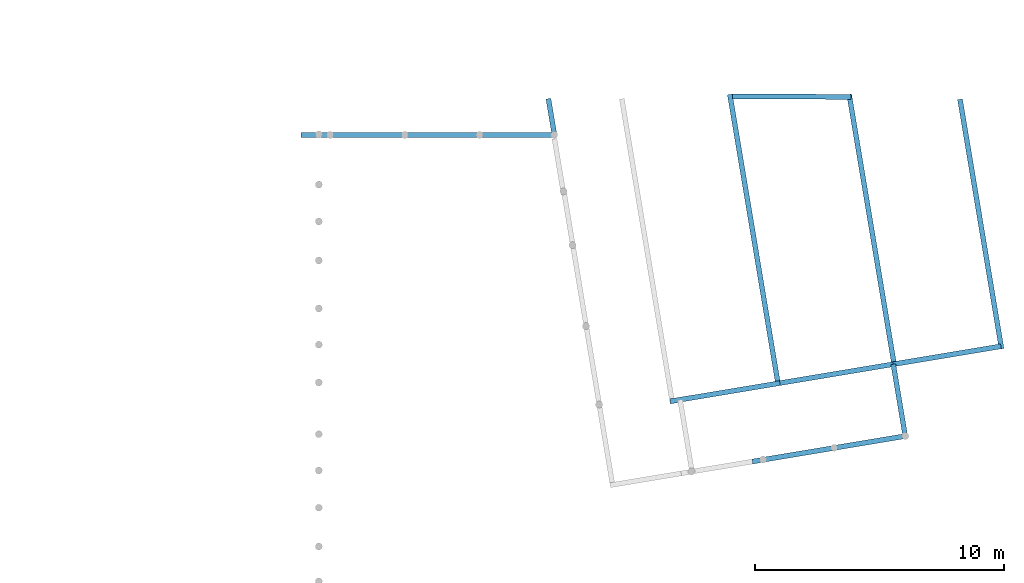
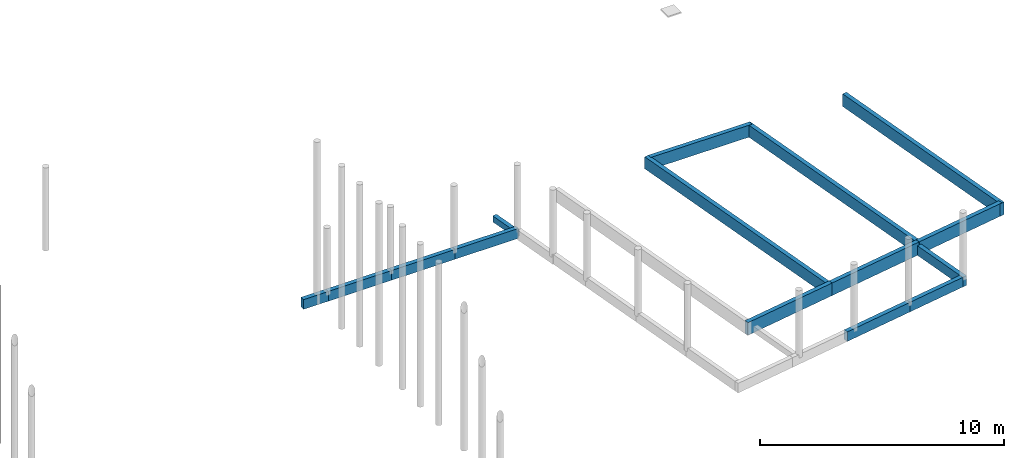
# One storey, part 3 of 4: 15 slabs.
"""IFC4 building model written with IfcOpenShell, lengths in metres."""

import ifcopenshell
import ifcopenshell.guid

model = None  # the IFC model being written
_history = None  # IfcOwnerHistory: only IFC2X3 demands one
_inside = {}  # id of a spatial element -> (the spatial element, [elements in it])
_under = {}  # id of a project, library or spatial element -> (it, [spatial elements below it])
_declared = {}  # id of a project -> (the project, [libraries it declares])
_typed = {}  # id of a type object -> (the type object, [elements of that type])
_made_of = {}  # id of a material, layer set ... -> (it, [elements and type objects made of it])


def new_model(schema):
    """Start an empty IFC model of exactly this schema.

    Asked for "IFC4X3", IfcOpenShell would pick the latest addendum, in which some entities
    have other attributes; the version numbers below select the first issue.
    IFC2X3 requires an IfcOwnerHistory on every rooted entity: one is made here for all.
    """
    global model, _history
    if schema == "IFC4X3":
        model = ifcopenshell.file(schema_version=(4, 3, 0, 0))
    else:
        model = ifcopenshell.file(schema=schema)
    _inside.clear()
    _under.clear()
    _declared.clear()
    _typed.clear()
    _made_of.clear()
    _history = None
    if model.schema == "IFC2X3":
        org = make("IfcOrganization", Name="unknown")
        user = make(
            "IfcPersonAndOrganization",
            ThePerson=make("IfcPerson", FamilyName="unknown"),
            TheOrganization=org,
        )
        app = make(
            "IfcApplication",
            ApplicationDeveloper=org,
            Version="unknown",
            ApplicationFullName="unknown",
            ApplicationIdentifier="unknown",
        )
        _history = make(
            "IfcOwnerHistory",
            OwningUser=user,
            OwningApplication=app,
            ChangeAction="ADDED",
            CreationDate=0,
        )
    return model


def make(cls, **values):
    """One entity of the class cls with the attributes given. An attribute that is None is left unset."""
    return model.create_entity(
        cls, **{name: value for name, value in values.items() if value is not None}
    )


def entity(cls, *values):
    """Any entity or typed value of the class cls, its attributes in the order of the schema. None: left unset."""
    e = model.create_entity(cls)
    for i, value in enumerate(values):
        if value is not None:
            e[i] = value
    return e


def rooted(cls, **values):
    """An entity with a GlobalId (a new one), such as an element, a storey or a relation."""
    return make(cls, GlobalId=ifcopenshell.guid.new(), OwnerHistory=_history, **values)


def si_unit(unit_type, name, prefix=None):
    """IfcSIUnit, for example si_unit("LENGTHUNIT", "METRE", prefix="MILLI")."""
    return make("IfcSIUnit", UnitType=unit_type, Prefix=prefix, Name=name)


def converted_unit(unit_type, name, factor, base, dimensions=None, offset=None):
    """IfcConversionBasedUnit, such as the inch: factor (a typed value) times the base unit."""
    return make(
        "IfcConversionBasedUnit"
        if offset is None
        else "IfcConversionBasedUnitWithOffset",
        ConversionOffset=offset,
        Dimensions=None
        if dimensions is None
        else entity("IfcDimensionalExponents", *dimensions),
        UnitType=unit_type,
        Name=name,
        ConversionFactor=make(
            "IfcMeasureWithUnit", ValueComponent=factor, UnitComponent=base
        ),
    )


def derived_unit(unit_type, elements):
    """IfcDerivedUnit: a product of units, each with its exponent."""
    return make(
        "IfcDerivedUnit",
        Elements=[
            make("IfcDerivedUnitElement", Unit=unit, Exponent=power)
            for unit, power in elements
        ],
        UnitType=unit_type,
    )


def assignment(units):
    """IfcUnitAssignment: the units of a project."""
    return None if units is None else make("IfcUnitAssignment", Units=units)


def point(xyz):
    """IfcCartesianPoint."""
    return None if xyz is None else make("IfcCartesianPoint", Coordinates=xyz)


def direction(xyz):
    """IfcDirection."""
    return None if xyz is None else make("IfcDirection", DirectionRatios=xyz)


def frame(location, z_axis=None, x_axis=None):
    """IfcAxis2Placement3D, a coordinate frame: its origin and axes. An axis left out is left unset."""
    return make(
        "IfcAxis2Placement3D",
        Location=point(location),
        Axis=direction(z_axis),
        RefDirection=direction(x_axis),
    )


def origin():
    """The frame at (0, 0, 0) with its axes left unset."""
    return frame((0.0, 0.0, 0.0))


def place(relative_to, where):
    """IfcLocalPlacement: puts the frame where relative to a parent placement (None: the world)."""
    return make(
        "IfcLocalPlacement", PlacementRelTo=relative_to, RelativePlacement=where
    )


def context(
    kind, dimensions, precision=None, world=None, true_north=None, identifier=None
):
    """IfcGeometricRepresentationContext, for example the 3D "Model" context."""
    return make(
        "IfcGeometricRepresentationContext",
        ContextIdentifier=identifier,
        ContextType=kind,
        CoordinateSpaceDimension=dimensions,
        Precision=precision,
        WorldCoordinateSystem=world,
        TrueNorth=true_north,
    )


def subcontext(parent, identifier, kind, view, scale=None):
    """IfcGeometricRepresentationSubContext, for example "Body" below "Model"."""
    return make(
        "IfcGeometricRepresentationSubContext",
        ContextIdentifier=identifier,
        ContextType=kind,
        ParentContext=parent,
        TargetScale=scale,
        TargetView=view,
    )


def project(units=None, contexts=None):
    """IfcProject with its units and contexts."""
    return rooted(
        "IfcProject",
        Name="project",
        RepresentationContexts=contexts,
        UnitsInContext=assignment(units),
    )


def spatial(cls, under=None, at=None, **own):
    """A site, building, storey or space (cls), placed at a placement, below another one or the project."""
    s = rooted(cls, ObjectPlacement=at, **own)
    if under is not None:
        _under.setdefault(under.id(), (under, []))[1].append(s)
    return s


def point_list(points):
    """IfcCartesianPointList2D or 3D."""
    cls = (
        "IfcCartesianPointList2D" if len(points[0]) == 2 else "IfcCartesianPointList3D"
    )
    return make(cls, CoordList=points)


def indexed_curve(points, segments=None, self_intersect=None):
    """IfcIndexedPolyCurve: lines and arcs through numbered points (the first is 1)."""
    return make(
        "IfcIndexedPolyCurve",
        Points=point_list(points),
        Segments=segments,
        SelfIntersect=self_intersect,
    )


def outline(outer, holes=None, kind="AREA"):
    """IfcArbitraryClosedProfileDef: a profile drawn as a closed curve; with holes, ...WithVoids."""
    if holes is None:
        return make("IfcArbitraryClosedProfileDef", ProfileType=kind, OuterCurve=outer)
    return make(
        "IfcArbitraryProfileDefWithVoids",
        ProfileType=kind,
        OuterCurve=outer,
        InnerCurves=holes,
    )


def extrude(swept, where, along, depth):
    """IfcExtrudedAreaSolid: the profile swept, set in the frame where, extruded along a direction by depth."""
    return make(
        "IfcExtrudedAreaSolid",
        SweptArea=swept,
        Position=where,
        ExtrudedDirection=direction(along),
        Depth=depth,
    )


def shape(context_of_items, identifier, shape_type, items):
    """IfcShapeRepresentation: the items that make up one representation, for example the "Body"."""
    return make(
        "IfcShapeRepresentation",
        ContextOfItems=context_of_items,
        RepresentationIdentifier=identifier,
        RepresentationType=shape_type,
        Items=items,
    )


def made_of(thing, what):
    """Note that an element or type object is made of a material, layer set ...; save() writes the relation."""
    if what is not None:
        _made_of.setdefault(what.id(), (what, []))[1].append(thing)
    return thing


def type_object(cls, material=None, **own):
    """A type object (cls), such as IfcWallType, which elements share."""
    return made_of(rooted(cls, **own), material)


def element(
    cls,
    number,
    at=None,
    inside=None,
    cuts=None,
    type_object=None,
    material=None,
    context=None,
    identifier="Body",
    shape_type=None,
    held_by="IfcProductDefinitionShape",
    body=None,
    shapes=None,
    **own,
):
    """One element of the class cls, such as IfcWall. Its Tag is "e" and its number.

    at: its placement. inside: the storey or other place that contains it. cuts: it is an
    opening in that element (IfcRelVoidsElement). A single representation is given by context,
    identifier, shape_type and body (its items); several are given by shapes. held_by: the class
    of the entity that holds the representations. save() writes the other relations.
    """
    e = rooted(cls, Tag="e%d" % number, ObjectPlacement=at, **own)
    if body is not None:
        shapes = [shape(context, identifier, shape_type, body)]
    if shapes is not None:
        e.Representation = make(held_by, Representations=shapes)
    if inside is not None:
        _inside.setdefault(inside.id(), (inside, []))[1].append(e)
    if cuts is not None:
        rooted(
            "IfcRelVoidsElement", RelatingBuildingElement=cuts, RelatedOpeningElement=e
        )
    if type_object is not None:
        _typed.setdefault(type_object.id(), (type_object, []))[1].append(e)
    return made_of(e, material)


def aggregate(whole, parts):
    """IfcRelAggregates: a whole, such as a stair, and the parts it consists of."""
    return rooted("IfcRelAggregates", RelatingObject=whole, RelatedObjects=parts)


def save(model, path):
    """Write the relations noted so far, then the file.

    IfcRelAggregates (storeys below a building ...), IfcRelContainedInSpatialStructure (elements
    in a storey), IfcRelDefinesByType, IfcRelAssociatesMaterial and IfcRelDeclares: one each for
    every whole, place, type object, material and project.
    """
    for whole, parts in _under.values():
        aggregate(whole, parts)
    for where, things in _inside.values():
        rooted(
            "IfcRelContainedInSpatialStructure",
            RelatedElements=things,
            RelatingStructure=where,
        )
    for kind, things in _typed.values():
        rooted("IfcRelDefinesByType", RelatedObjects=things, RelatingType=kind)
    for what, things in _made_of.values():
        rooted("IfcRelAssociatesMaterial", RelatedObjects=things, RelatingMaterial=what)
    for by, libraries in _declared.values():
        rooted("IfcRelDeclares", RelatingContext=by, RelatedDefinitions=libraries)
    model.write(path)


model = new_model("IFC4")

# Units and contexts
model_context = context("Model", 3, precision=1e-05, world=origin(), true_north=direction((6.123031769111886e-17, 1.0)))
body_context = subcontext(model_context, "Body", "Model", "MODEL_VIEW")
ifc_project = project(units=[si_unit("LENGTHUNIT", "METRE"), si_unit("AREAUNIT", "SQUARE_METRE"), si_unit("VOLUMEUNIT", "CUBIC_METRE"), converted_unit("PLANEANGLEUNIT", "DEGREE", entity("IfcRatioMeasure", 0.017453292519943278), si_unit("PLANEANGLEUNIT", "RADIAN"), dimensions=[0, 0, 0, 0, 0, 0, 0]), si_unit("MASSUNIT", "GRAM", prefix="KILO"), derived_unit("MASSDENSITYUNIT", [(si_unit("MASSUNIT", "GRAM", prefix="KILO"), 1), (si_unit("LENGTHUNIT", "METRE"), -3)]), derived_unit("MOMENTOFINERTIAUNIT", [(si_unit("LENGTHUNIT", "METRE"), 4)]), si_unit("TIMEUNIT", "SECOND"), si_unit("FREQUENCYUNIT", "HERTZ"), si_unit("THERMODYNAMICTEMPERATUREUNIT", "DEGREE_CELSIUS"), derived_unit("THERMALTRANSMITTANCEUNIT", [(si_unit("MASSUNIT", "GRAM", prefix="KILO"), 1), (si_unit("THERMODYNAMICTEMPERATUREUNIT", "KELVIN"), -1), (si_unit("TIMEUNIT", "SECOND"), -3)]), derived_unit("VOLUMETRICFLOWRATEUNIT", [(si_unit("LENGTHUNIT", "METRE"), 3), (si_unit("TIMEUNIT", "SECOND"), -1)]), derived_unit("MASSFLOWRATEUNIT", [(si_unit("MASSUNIT", "GRAM", prefix="KILO"), 1), (si_unit("TIMEUNIT", "SECOND"), -1)]), derived_unit("ROTATIONALFREQUENCYUNIT", [(si_unit("TIMEUNIT", "SECOND"), -1)]), si_unit("ELECTRICCURRENTUNIT", "AMPERE"), si_unit("ELECTRICVOLTAGEUNIT", "VOLT"), si_unit("POWERUNIT", "WATT"), si_unit("FORCEUNIT", "NEWTON", prefix="KILO"), si_unit("ILLUMINANCEUNIT", "LUX"), si_unit("LUMINOUSFLUXUNIT", "LUMEN"), si_unit("LUMINOUSINTENSITYUNIT", "CANDELA"), derived_unit("USERDEFINED", [(si_unit("MASSUNIT", "GRAM", prefix="KILO"), -1), (si_unit("LENGTHUNIT", "METRE"), -2), (si_unit("TIMEUNIT", "SECOND"), 3), (si_unit("LUMINOUSFLUXUNIT", "LUMEN"), 1)]), derived_unit("SOUNDPOWERUNIT", [(si_unit("MASSUNIT", "GRAM", prefix="KILO"), 1), (si_unit("LENGTHUNIT", "METRE"), 2), (si_unit("TIMEUNIT", "SECOND"), -3)]), derived_unit("SOUNDPRESSUREUNIT", [(si_unit("MASSUNIT", "GRAM", prefix="KILO"), 1), (si_unit("LENGTHUNIT", "METRE"), -1), (si_unit("TIMEUNIT", "SECOND"), -2)]), derived_unit("LINEARVELOCITYUNIT", [(si_unit("LENGTHUNIT", "METRE"), 1), (si_unit("TIMEUNIT", "SECOND"), -1)]), si_unit("PRESSUREUNIT", "PASCAL"), derived_unit("USERDEFINED", [(si_unit("LENGTHUNIT", "METRE"), -2), (si_unit("MASSUNIT", "GRAM", prefix="KILO"), 1), (si_unit("TIMEUNIT", "SECOND"), -2)]), derived_unit("LINEARFORCEUNIT", [(si_unit("MASSUNIT", "GRAM", prefix="KILO"), 1), (si_unit("LENGTHUNIT", "METRE"), 1), (si_unit("TIMEUNIT", "SECOND"), -2), (si_unit("LENGTHUNIT", "METRE"), -1)]), derived_unit("PLANARFORCEUNIT", [(si_unit("MASSUNIT", "GRAM", prefix="KILO"), 1), (si_unit("LENGTHUNIT", "METRE"), 1), (si_unit("TIMEUNIT", "SECOND"), -2), (si_unit("LENGTHUNIT", "METRE"), -2)])], contexts=[model_context])

# Site, building, storey
site_placement = place(None, origin())
site = spatial("IfcSite", under=ifc_project, at=site_placement, Name="Default", CompositionType="ELEMENT")
building_placement = place(site_placement, origin())
building = spatial("IfcBuilding", under=site, at=building_placement, CompositionType="ELEMENT")
storey_placement = place(building_placement, frame((0.0, 0.0, -0.63)))
storey = spatial("IfcBuildingStorey", under=building, at=storey_placement, Name="Arase inf longrines", CompositionType="ELEMENT", Elevation=-0.63)

# Slabs
slab_type_1 = type_object("IfcSlabType", Name="Lg 02 20*60:Lg 02 20*60", PredefinedType="BASESLAB")
slab_1_placement = place(storey_placement, origin())
element("IfcSlab", 1, at=slab_1_placement, inside=storey, type_object=slab_type_1, Name="Lg 02 20*60:Lg 02 20*60", ObjectType="Lg 02 20*60:Lg 02 20*60", PredefinedType="BASESLAB", context=body_context, shape_type="SweptSolid", body=[
    extrude(outline(indexed_curve([(-1.4999999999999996, -0.1), (1.4999999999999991, -0.1), (1.4999999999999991, 0.1), (-1.4999999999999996, 0.1), (-1.4999999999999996, -0.1)], self_intersect=False)), frame((-2.4734500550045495, 9.159106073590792, 0.0), z_axis=(0.0, 0.0, 1.0), x_axis=(-1.0, 0.0, 0.0)), (0.0, 0.0, 1.0), 0.4899999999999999),
])
slab_type_2 = type_object("IfcSlabType", Name="Lg01 20*5:Lg01 20*30", PredefinedType="BASESLAB")
slab_2_placement = place(storey_placement, origin())
element("IfcSlab", 2, at=slab_2_placement, inside=storey, type_object=slab_type_2, Name="Lg01 20*5:Lg01 20*30", ObjectType="Lg01 20*5:Lg01 20*30", PredefinedType="BASESLAB", context=body_context, shape_type="SweptSolid", body=[
    extrude(outline(indexed_curve([(-0.7358023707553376, -0.10000000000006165), (0.7358023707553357, -0.10000000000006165), (0.7358023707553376, 0.10000000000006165), (-0.7358023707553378, 0.10000000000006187), (-0.7358023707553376, -0.10000000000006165)], self_intersect=False)), frame((-1.0836030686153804, 9.889751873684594, 0.0), z_axis=(0.0, 0.0, 1.0), x_axis=(-0.1641868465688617, 0.9864292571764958, 0.0)), (0.0, 0.0, 1.0), 0.29999999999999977),
])
slab_type_3 = type_object("IfcSlabType", Name="Lg 02 20*1:Lg 02 20*60", PredefinedType="BASESLAB")
slab_3_placement = place(storey_placement, origin())
element("IfcSlab", 3, at=slab_3_placement, inside=storey, type_object=slab_type_3, Name="Lg 02 20*1:Lg 02 20*60", ObjectType="Lg 02 20*1:Lg 02 20*60", PredefinedType="BASESLAB", context=body_context, shape_type="SweptSolid", body=[
    extrude(outline(indexed_curve([(-1.4999999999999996, -0.1), (1.4999999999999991, -0.1), (1.4999999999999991, 0.1), (-1.4999999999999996, 0.1), (-1.4999999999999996, -0.1)], self_intersect=False)), frame((-5.483450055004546, 9.159106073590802, 0.0), z_axis=(0.0, 0.0, 1.0), x_axis=(-1.0, 0.0, 0.0)), (0.0, 0.0, 1.0), 0.4899999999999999),
])
slab_type_4 = type_object("IfcSlabType", Name="Lg 02 20*2:Lg 02 20*60", PredefinedType="BASESLAB")
slab_4_placement = place(storey_placement, origin())
element("IfcSlab", 4, at=slab_4_placement, inside=storey, type_object=slab_type_4, Name="Lg 02 20*2:Lg 02 20*60", ObjectType="Lg 02 20*2:Lg 02 20*60", PredefinedType="BASESLAB", context=body_context, shape_type="SweptSolid", body=[
    extrude(outline(indexed_curve([(-1.4999999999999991, -0.09999999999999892), (1.4999999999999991, -0.09999999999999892), (1.4999999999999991, 0.10000000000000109), (-1.4999999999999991, 0.10000000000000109), (-1.4999999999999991, -0.09999999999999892)], self_intersect=False)), frame((-8.48345005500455, 9.159106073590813, 0.0), z_axis=(0.0, 0.0, 1.0), x_axis=(-1.0, 0.0, 0.0)), (0.0, 0.0, 1.0), 0.48999999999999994),
])
slab_type_5 = type_object("IfcSlabType", Name="Lg 02 20*3:Lg 02 20*60", PredefinedType="BASESLAB")
slab_5_placement = place(storey_placement, origin())
element("IfcSlab", 5, at=slab_5_placement, inside=storey, type_object=slab_type_5, Name="Lg 02 20*3:Lg 02 20*60", ObjectType="Lg 02 20*3:Lg 02 20*60", PredefinedType="BASESLAB", context=body_context, shape_type="SweptSolid", body=[
    extrude(outline(indexed_curve([(-1.4999999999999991, -0.1), (1.4999999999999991, -0.1), (1.4999999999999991, 0.1), (-1.4999999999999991, 0.1), (-1.4999999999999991, -0.1)], self_intersect=False)), frame((-9.653450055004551, 9.159106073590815, 0.0), z_axis=(0.0, 0.0, 1.0), x_axis=(-1.0, 0.0, 0.0)), (0.0, 0.0, 1.0), 0.48999999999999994),
])
slab_type_6 = type_object("IfcSlabType", Name="Lg01 20*8:Lg01 20*30", PredefinedType="BASESLAB")
slab_6_placement = place(storey_placement, origin())
element("IfcSlab", 6, at=slab_6_placement, inside=storey, type_object=slab_type_6, Name="Lg01 20*8:Lg01 20*30", ObjectType="Lg01 20*8:Lg01 20*30", PredefinedType="BASESLAB", context=body_context, shape_type="SweptSolid", body=[
    extrude(outline(indexed_curve([(-1.6696728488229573, -0.10000000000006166), (1.6696728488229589, -0.10000000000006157), (1.6696728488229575, 0.1000000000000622), (-1.6696728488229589, 0.10000000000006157), (-1.6696728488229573, -0.10000000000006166)], self_intersect=False)), frame((8.647264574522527, -3.7082793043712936, 0.0), z_axis=(0.0, 0.0, 1.0), x_axis=(-0.9864292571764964, -0.16418684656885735, 0.0)), (0.0, 0.0, 1.0), 0.47999999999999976),
])
slab_type_7 = type_object("IfcSlabType", Name="Lg01 20*9:Lg01 20*30", PredefinedType="BASESLAB")
slab_7_placement = place(storey_placement, origin())
element("IfcSlab", 7, at=slab_7_placement, inside=storey, type_object=slab_type_7, Name="Lg01 20*9:Lg01 20*30", ObjectType="Lg01 20*9:Lg01 20*30", PredefinedType="BASESLAB", context=body_context, shape_type="SweptSolid", body=[
    extrude(outline(indexed_curve([(-1.6696728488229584, -0.1000000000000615), (1.6696728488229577, -0.10000000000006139), (1.6696728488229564, 0.10000000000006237), (-1.66967284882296, 0.10000000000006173), (-1.6696728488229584, -0.1000000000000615)], self_intersect=False)), frame((11.507909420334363, -3.2321374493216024, 0.0), z_axis=(0.0, 0.0, 1.0), x_axis=(-0.9864292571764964, -0.16418684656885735, 0.0)), (0.0, 0.0, 1.0), 0.47999999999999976),
])
slab_type_8 = type_object("IfcSlabType", Name="Lg01 20*10:Lg01 20*30", PredefinedType="BASESLAB")
slab_8_placement = place(storey_placement, origin())
element("IfcSlab", 8, at=slab_8_placement, inside=storey, type_object=slab_type_8, Name="Lg01 20*10:Lg01 20*30", ObjectType="Lg01 20*10:Lg01 20*30", PredefinedType="BASESLAB", context=body_context, shape_type="SweptSolid", body=[
    extrude(outline(indexed_curve([(-1.5166834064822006, -0.10000000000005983), (1.516683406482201, -0.10000000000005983), (1.5166834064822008, 0.10000000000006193), (-1.5166834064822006, 0.10000000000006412), (-1.5166834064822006, -0.10000000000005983)], self_intersect=False)), frame((12.91927848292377, -1.5627347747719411, 0.0), z_axis=(0.0, 0.0, 1.0), x_axis=(0.1641868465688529, -0.9864292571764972, 0.0)), (0.0, 0.0, 1.0), 0.4799999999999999),
])
slab_type_9 = type_object("IfcSlabType", Name="Lg 03 20*70:Lg 03 20*70", PredefinedType="BASESLAB")
slab_9_placement = place(storey_placement, origin())
element("IfcSlab", 9, at=slab_9_placement, inside=storey, type_object=slab_type_9, Name="Lg 03 20*70:Lg 03 20*70", ObjectType="Lg 03 20*70:Lg 03 20*70", PredefinedType="BASESLAB", context=body_context, shape_type="SweptSolid", body=[
    extrude(outline(indexed_curve([(-2.196510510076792, -0.09999999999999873), (2.1965105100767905, -0.09999999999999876), (2.196510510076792, 0.09999999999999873), (-2.1965105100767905, 0.09999999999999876), (-2.196510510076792, -0.09999999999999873)], self_intersect=False)), frame((14.836961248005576, 0.29400424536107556, 0.0), z_axis=(0.0, 0.0, 1.0), x_axis=(-0.9864292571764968, -0.1641868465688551, 0.0)), (0.0, 0.0, 1.0), 0.6299999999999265),
])
slab_type_10 = type_object("IfcSlabType", Name="Lg 03 20*1:Lg 03 20*70", PredefinedType="BASESLAB")
slab_10_placement = place(storey_placement, origin())
element("IfcSlab", 10, at=slab_10_placement, inside=storey, type_object=slab_type_10, Name="Lg 03 20*1:Lg 03 20*70", ObjectType="Lg 03 20*1:Lg 03 20*70", PredefinedType="BASESLAB", context=body_context, shape_type="SweptSolid", body=[
    extrude(outline(indexed_curve([(-2.3549999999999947, -0.09999999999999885), (2.354999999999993, -0.09999999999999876), (2.3549999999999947, 0.09999999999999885), (-2.354999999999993, 0.09999999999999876), (-2.3549999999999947, -0.09999999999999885)], self_intersect=False)), frame((10.340333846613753, -0.4544397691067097, 0.0), z_axis=(0.0, 0.0, 1.0), x_axis=(-0.9864292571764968, -0.16418684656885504, 0.0)), (0.0, 0.0, 1.0), 0.6299999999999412),
])
slab_type_11 = type_object("IfcSlabType", Name="Lg 03 20*2:Lg 03 20*70", PredefinedType="BASESLAB")
slab_11_placement = place(storey_placement, origin())
element("IfcSlab", 11, at=slab_11_placement, inside=storey, type_object=slab_type_11, Name="Lg 03 20*2:Lg 03 20*70", ObjectType="Lg 03 20*2:Lg 03 20*70", PredefinedType="BASESLAB", context=body_context, shape_type="SweptSolid", body=[
    extrude(outline(indexed_curve([(-2.234901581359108, -0.09999999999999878), (2.2349015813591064, -0.09999999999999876), (2.234901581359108, 0.09999999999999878), (-2.2349015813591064, 0.09999999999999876), (-2.234901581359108, -0.09999999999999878)], self_intersect=False)), frame((5.904479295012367, -1.192768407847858, 0.0), z_axis=(0.0, 0.0, 1.0), x_axis=(-0.9864292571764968, -0.16418684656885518, 0.0)), (0.0, 0.0, 1.0), 0.6299999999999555),
])
slab_type_12 = type_object("IfcSlabType", Name="Lg 03 20*4:Lg 03 20*70", PredefinedType="BASESLAB")
slab_12_placement = place(storey_placement, origin())
element("IfcSlab", 12, at=slab_12_placement, inside=storey, type_object=slab_type_12, Name="Lg 03 20*4:Lg 03 20*70", ObjectType="Lg 03 20*4:Lg 03 20*70", PredefinedType="BASESLAB", context=body_context, shape_type="SweptSolid", body=[
    extrude(outline(indexed_curve([(-5.088431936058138, -0.09999999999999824), (5.088431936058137, -0.09999999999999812), (5.088431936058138, 0.10000000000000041), (-5.088431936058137, 0.09999999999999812), (-5.088431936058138, -0.09999999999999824)], self_intersect=False)), frame((16.19020367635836, 5.571894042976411, 0.0), z_axis=(0.0, 0.0, 1.0), x_axis=(0.16418684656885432, -0.986429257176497, 0.0)), (0.0, 0.0, 1.0), 0.6299999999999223),
])
slab_type_13 = type_object("IfcSlabType", Name="Lg 04 20*60:Lg 04 20*60", PredefinedType="BASESLAB")
slab_13_placement = place(storey_placement, origin())
element("IfcSlab", 13, at=slab_13_placement, inside=storey, type_object=slab_type_13, Name="Lg 04 20*60:Lg 04 20*60", ObjectType="Lg 04 20*60:Lg 04 20*60", PredefinedType="BASESLAB", context=body_context, shape_type="SweptSolid", body=[
    extrude(outline(indexed_curve([(-5.843748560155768, -0.09999999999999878), (5.8437485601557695, -0.09999999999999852), (5.843748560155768, 0.09999999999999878), (-5.8437485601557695, 0.09999999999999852), (-5.843748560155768, -0.09999999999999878)], self_intersect=False)), frame((7.055017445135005, 5.024252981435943, 0.0), z_axis=(0.0, 0.0, 1.0), x_axis=(-0.16418684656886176, 0.9864292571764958, 0.0)), (0.0, 0.0, 1.0), 0.5999999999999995),
])
slab_type_14 = type_object("IfcSlabType", Name="Lg 04 20*1:Lg 04 20*60", PredefinedType="BASESLAB")
slab_14_placement = place(storey_placement, origin())
element("IfcSlab", 14, at=slab_14_placement, inside=storey, type_object=slab_type_14, Name="Lg 04 20*1:Lg 04 20*60", ObjectType="Lg 04 20*1:Lg 04 20*60", PredefinedType="BASESLAB", context=body_context, shape_type="SweptSolid", body=[
    extrude(outline(indexed_curve([(-5.449700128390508, -0.09999999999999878), (5.449700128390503, -0.09999999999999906), (5.449700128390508, 0.09999999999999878), (-5.449700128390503, 0.09999999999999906), (-5.449700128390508, -0.09999999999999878)], self_intersect=False)), frame((11.790319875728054, 5.41295388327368, 0.0), z_axis=(0.0, 0.0, 1.0), x_axis=(-0.16441118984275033, 0.9863918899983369, 0.0)), (0.0, 0.0, 1.0), 0.5999999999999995),
])
slab_type_15 = type_object("IfcSlabType", Name="Lg 04 20*2:Lg 04 20*60", PredefinedType="BASESLAB")
slab_15_placement = place(storey_placement, origin())
element("IfcSlab", 15, at=slab_15_placement, inside=storey, type_object=slab_type_15, Name="Lg 04 20*2:Lg 04 20*60", ObjectType="Lg 04 20*2:Lg 04 20*60", PredefinedType="BASESLAB", context=body_context, shape_type="SweptSolid", body=[
    extrude(outline(indexed_curve([(-2.3908027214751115, -0.09999999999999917), (2.3908027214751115, -0.09999999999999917), (2.3908027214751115, 0.09999999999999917), (-2.3908027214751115, 0.09999999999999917), (-2.3908027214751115, -0.09999999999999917)], self_intersect=False)), frame((8.584736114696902, 10.697980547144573, 0.0), z_axis=(0.0, 0.0, 1.0), x_axis=(-0.9999955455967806, 0.00298475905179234, 0.0)), (0.0, 0.0, 1.0), 0.5999999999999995),
])

save(model, "model.ifc")
